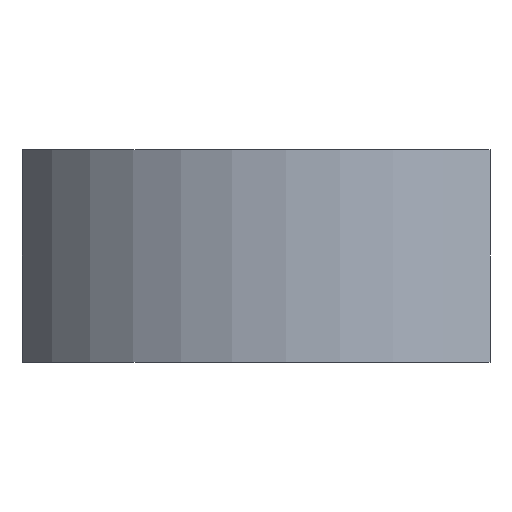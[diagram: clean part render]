
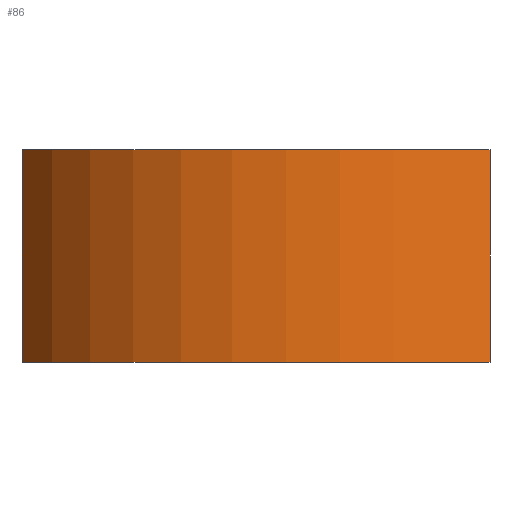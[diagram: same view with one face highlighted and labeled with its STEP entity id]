
A CAD part, left-side view. The second image highlights one B-rep face of the part: STEP entity #86.
In plain terms, the highlighted cylindrical face has radius 23 mm (diameter 46 mm), a partial arc.
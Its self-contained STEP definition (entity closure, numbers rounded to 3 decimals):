
#86 = ADVANCED_FACE( '', ( #142 ), #143, .T. );
#142 = FACE_OUTER_BOUND( '', #229, .T. );
#143 = CYLINDRICAL_SURFACE( '', #230, 23. );
#229 = EDGE_LOOP( '', ( #350, #351, #352, #353 ) );
#230 = AXIS2_PLACEMENT_3D( '', #354, #355, #356 );
#350 = ORIENTED_EDGE( '', *, *, #496, .T. );
#351 = ORIENTED_EDGE( '', *, *, #500, .F. );
#352 = ORIENTED_EDGE( '', *, *, #488, .F. );
#353 = ORIENTED_EDGE( '', *, *, #501, .T. );
#354 = CARTESIAN_POINT( '', ( 0., 0., 7.5 ) );
#355 = DIRECTION( '', ( 0., 0., 1. ) );
#356 = DIRECTION( '', ( -1., 0., 0. ) );
#488 = EDGE_CURVE( '', #550, #552, #553, .T. );
#496 = EDGE_CURVE( '', #562, #566, #568, .T. );
#500 = EDGE_CURVE( '', #552, #566, #573, .T. );
#501 = EDGE_CURVE( '', #550, #562, #574, .T. );
#550 = VERTEX_POINT( '', #705 );
#552 = VERTEX_POINT( '', #708 );
#553 = CIRCLE( '', #709, 23. );
#562 = VERTEX_POINT( '', #719 );
#566 = VERTEX_POINT( '', #724 );
#568 = CIRCLE( '', #727, 23. );
#573 = LINE( '', #734, #735 );
#574 = LINE( '', #736, #737 );
#705 = CARTESIAN_POINT( '', ( -11.358, 20., 7.5 ) );
#708 = CARTESIAN_POINT( '', ( -18.974, -13., 7.5 ) );
#709 = AXIS2_PLACEMENT_3D( '', #831, #832, #833 );
#719 = CARTESIAN_POINT( '', ( -11.358, 20., -7.5 ) );
#724 = CARTESIAN_POINT( '', ( -18.974, -13., -7.5 ) );
#727 = AXIS2_PLACEMENT_3D( '', #849, #850, #851 );
#734 = CARTESIAN_POINT( '', ( -18.974, -13., 7.5 ) );
#735 = VECTOR( '', #857, 1000. );
#736 = CARTESIAN_POINT( '', ( -11.358, 20., 7.5 ) );
#737 = VECTOR( '', #858, 1000. );
#831 = CARTESIAN_POINT( '', ( 0., 0., 7.5 ) );
#832 = DIRECTION( '', ( 0., 0., 1. ) );
#833 = DIRECTION( '', ( 1., 0., 0. ) );
#849 = CARTESIAN_POINT( '', ( 0., 0., -7.5 ) );
#850 = DIRECTION( '', ( 0., 0., 1. ) );
#851 = DIRECTION( '', ( 1., 0., 0. ) );
#857 = DIRECTION( '', ( 0., 0., -1. ) );
#858 = DIRECTION( '', ( 0., 0., -1. ) );
